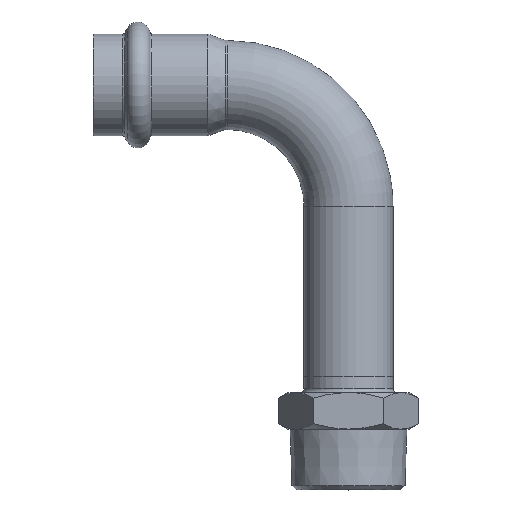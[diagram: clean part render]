
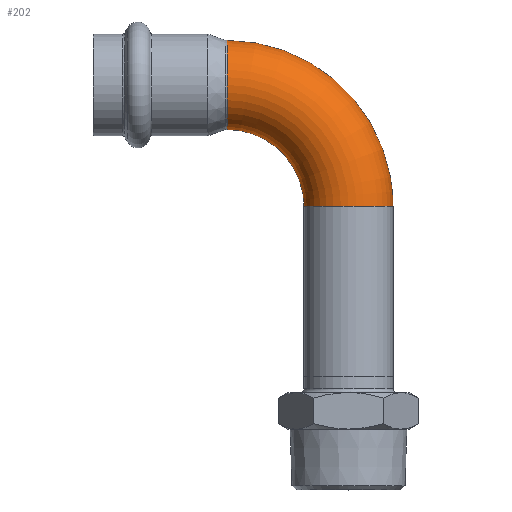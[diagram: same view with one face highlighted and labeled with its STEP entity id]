
A CAD part, top view. The second image highlights one B-rep face of the part: STEP entity #202.
In plain terms, the highlighted toroidal (fillet/blend) face has major radius 30 mm and minor radius 11 mm.
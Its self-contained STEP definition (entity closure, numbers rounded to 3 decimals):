
#171=CARTESIAN_POINT('',(30.0,-30.,-11.0));
#172=VERTEX_POINT('',#171);
#173=CARTESIAN_POINT('',(30.0,-30.0,0.0));
#174=DIRECTION('',(0.0,1.0,0.0));
#175=DIRECTION('',(0.0,0.0,1.0));
#176=AXIS2_PLACEMENT_3D('',#173,#174,#175);
#177=CIRCLE('',#176,11.0);
#178=EDGE_CURVE('',#172,#172,#177,.T.);
#183=CARTESIAN_POINT('',(0.0,-30.0,0.0));
#184=DIRECTION('',(0.0,0.0,-1.0));
#185=DIRECTION('',(-1.0,0.0,0.0));
#186=AXIS2_PLACEMENT_3D('',#183,#184,#185);
#187=TOROIDAL_SURFACE('',#186,30.0,11.0);
#188=ORIENTED_EDGE('',*,*,#178,.T.);
#189=EDGE_LOOP('',(#188));
#190=FACE_OUTER_BOUND('',#189,.T.);
#191=CARTESIAN_POINT('',(0.,11.0,0.0));
#192=VERTEX_POINT('',#191);
#193=CARTESIAN_POINT('',(0.,0.,0.0));
#194=DIRECTION('',(1.0,0.0,0.0));
#195=DIRECTION('',(0.0,1.0,0.0));
#196=AXIS2_PLACEMENT_3D('',#193,#194,#195);
#197=CIRCLE('',#196,11.0);
#198=EDGE_CURVE('',#192,#192,#197,.T.);
#199=ORIENTED_EDGE('',*,*,#198,.T.);
#200=EDGE_LOOP('',(#199));
#201=FACE_BOUND('',#200,.T.);
#202=ADVANCED_FACE('',(#190,#201),#187,.T.);
